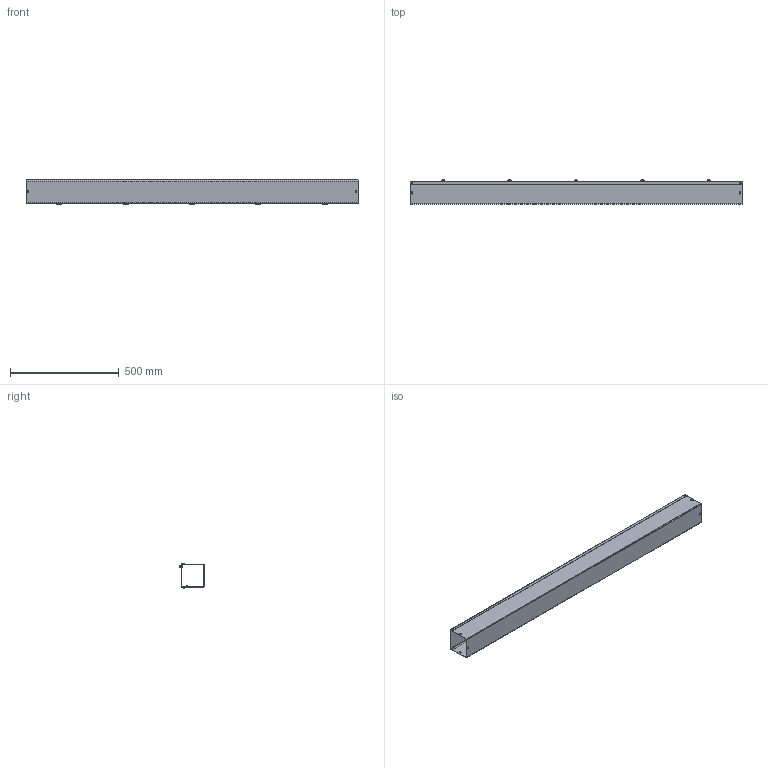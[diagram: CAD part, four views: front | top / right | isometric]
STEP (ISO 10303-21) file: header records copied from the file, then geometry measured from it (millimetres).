
FILE_DESCRIPTION (( 'STEP AP203' ), '1' );
FILE_NAME ('f44g60.STEP', '2015-09-01T15:47:50', ( '' ), ( '' ), 'SwSTEP 2.0', 'SolidWorks 2014', '' );
FILE_SCHEMA (( 'CONFIG_CONTROL_DESIGN' ));
Length unit declared in the file: inch
Products named in the file (7): 43301021; 43401011; 16111003_INSTALLED 095 THICKNESS; 16104001; 16118001; 87780048; f44g60
Assembly tree (18 placements, depth 2):
  f44g60
    43301021
    43401011
    16111003_INSTALLED 095 THICKNESS  x5
    16104001  x5
    16118001  x5
    87780048
Bounding box: 1524 x 110.54 x 115.52 mm (x, y, z)
Volume: 978067.4 mm3; surface area: 1418823 mm2
Topology: 18 solids, 18 shells, 681 faces, 1587 edges, 977 vertices
Faces by surface type: plane 339, cylinder 212, cone 60, torus 30, bspline 20, sphere 20
Entity records: 11708 total; most frequent: DIRECTION 1945, CARTESIAN_POINT 1878, ORIENTED_EDGE 1722, EDGE_CURVE 861, AXIS2_PLACEMENT_3D 718, VERTEX_POINT 541, LINE 509, VECTOR 509
